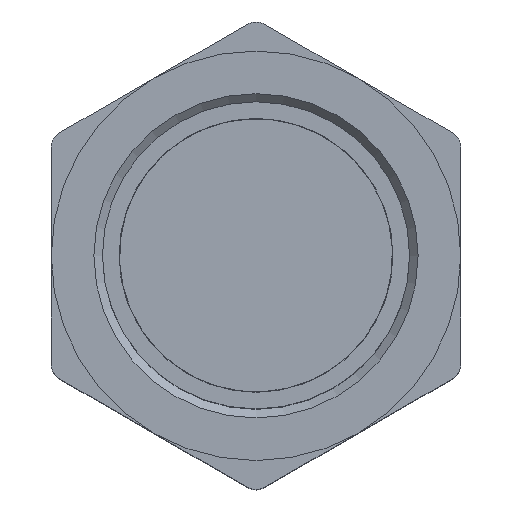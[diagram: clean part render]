
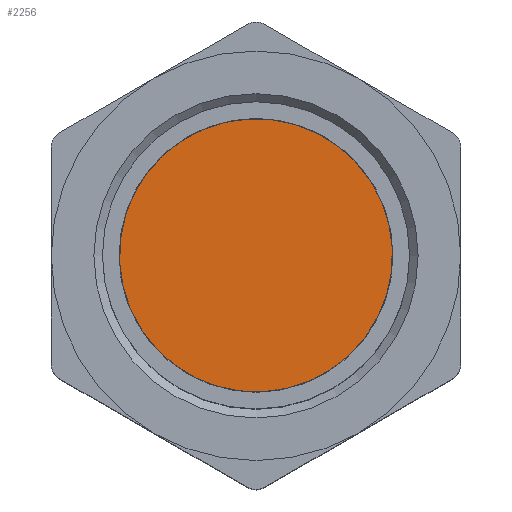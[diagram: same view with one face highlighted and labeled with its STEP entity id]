
A CAD part, top view. The second image highlights one B-rep face of the part: STEP entity #2256.
In plain terms, the highlighted planar face has unit normal (0, 0, 1).
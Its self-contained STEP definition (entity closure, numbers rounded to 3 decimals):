
#2240=CARTESIAN_POINT('',(2.192,-3.346,51.));
#2241=DIRECTION('',(0.0,0.0,1.0));
#2242=DIRECTION('',(-0.837,-0.548,0.0));
#2243=AXIS2_PLACEMENT_3D('',#2240,#2241,#2242);
#2244=PLANE('',#2243);
#2245=CARTESIAN_POINT('',(4.383,-6.692,51.));
#2246=VERTEX_POINT('',#2245);
#2247=CARTESIAN_POINT('',(0.,0.,51.));
#2248=DIRECTION('',(0.,0.,-1.0));
#2249=DIRECTION('',(0.548,-0.837,0.));
#2250=AXIS2_PLACEMENT_3D('',#2247,#2248,#2249);
#2251=CIRCLE('',#2250,8.0);
#2252=EDGE_CURVE('',#2246,#2246,#2251,.T.);
#2253=ORIENTED_EDGE('',*,*,#2252,.F.);
#2254=EDGE_LOOP('',(#2253));
#2255=FACE_OUTER_BOUND('',#2254,.T.);
#2256=ADVANCED_FACE('',(#2255),#2244,.T.);
